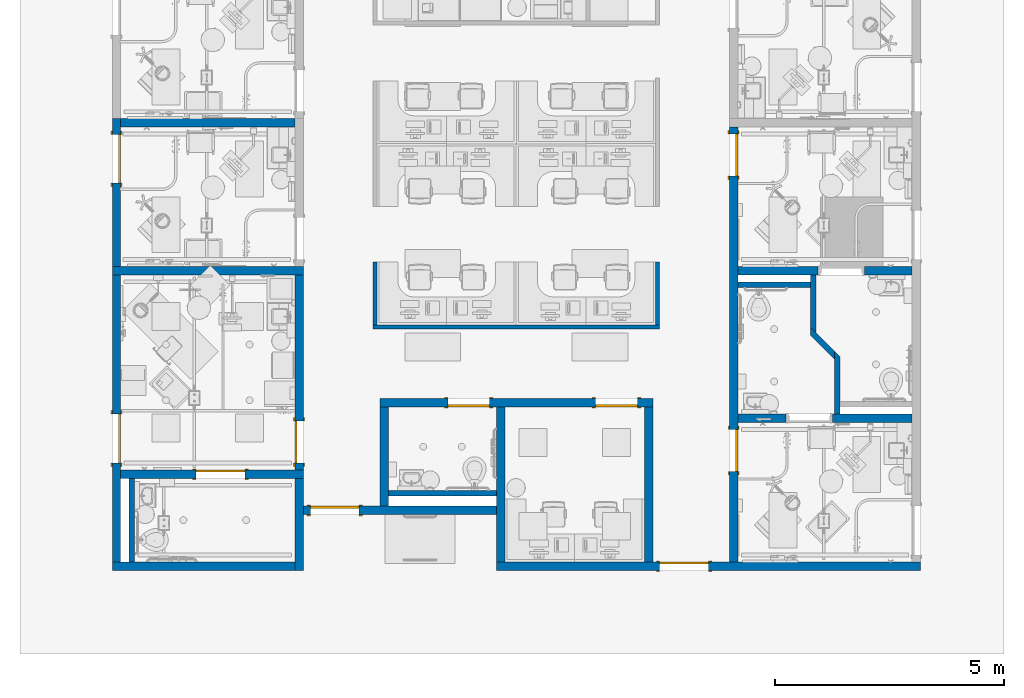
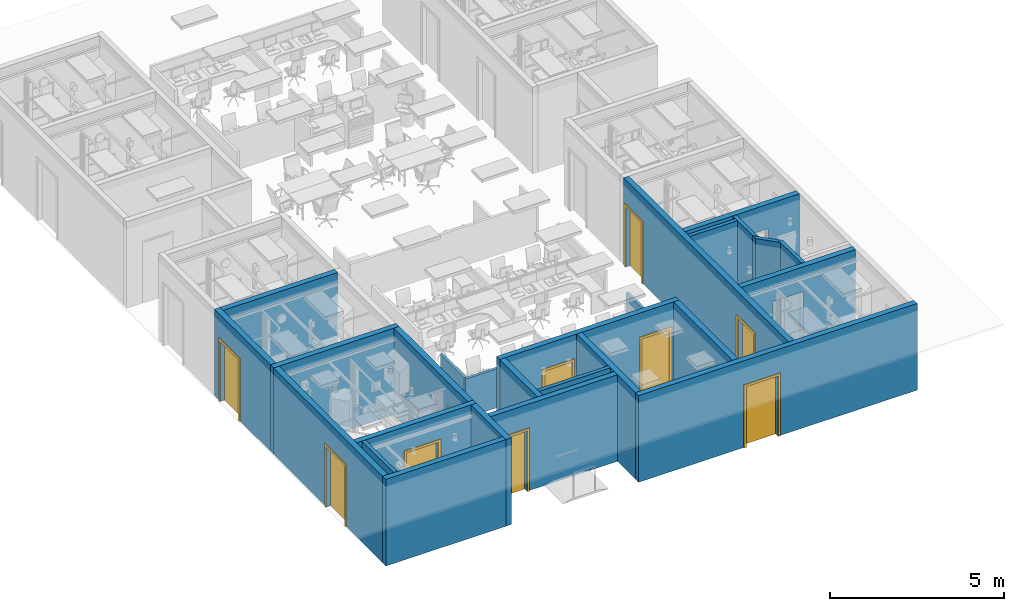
# One storey, part 1 of 142: 26 walls, 10 doors, 12 openings.
"""IFC2X3 building model written with IfcOpenShell, lengths in feet."""

from ifc_helpers import new_model, entity, si_unit, converted_unit, derived_unit, direction, frame, frame_2d, origin, place, context, subcontext, project, spatial, polyline, rectangle, outline, extrude, source, transform, mapped, material, layer, layer_set, layer_usage, type_object, type_shapes, element, fill, save


model = new_model("IFC2X3")

# Units and contexts
model_context = context("Model", 3, precision=0.0001, world=origin(), true_north=direction((6.12303176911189e-17, 1.0)))
body_context = subcontext(model_context, "Body", "Model", "MODEL_VIEW")
ifc_project = project(units=[converted_unit("LENGTHUNIT", "FOOT", entity("IfcRatioMeasure", 0.3048), si_unit("LENGTHUNIT", "METRE"), dimensions=[1, 0, 0, 0, 0, 0, 0]), converted_unit("AREAUNIT", "SQUARE FOOT", entity("IfcRatioMeasure", 0.09290304), si_unit("AREAUNIT", "SQUARE_METRE"), dimensions=[2, 0, 0, 0, 0, 0, 0]), converted_unit("VOLUMEUNIT", "CUBIC FOOT", entity("IfcRatioMeasure", 0.028316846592), si_unit("VOLUMEUNIT", "CUBIC_METRE"), dimensions=[3, 0, 0, 0, 0, 0, 0]), converted_unit("PLANEANGLEUNIT", "DEGREE", entity("IfcRatioMeasure", 0.0174532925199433), si_unit("PLANEANGLEUNIT", "RADIAN"), dimensions=[0, 0, 0, 0, 0, 0, 0]), si_unit("MASSUNIT", "GRAM", prefix="KILO"), derived_unit("MASSDENSITYUNIT", [(si_unit("MASSUNIT", "GRAM", prefix="KILO"), 1), (si_unit("LENGTHUNIT", "METRE"), -3)]), si_unit("TIMEUNIT", "SECOND"), si_unit("FREQUENCYUNIT", "HERTZ"), si_unit("THERMODYNAMICTEMPERATUREUNIT", "DEGREE_CELSIUS"), derived_unit("THERMALTRANSMITTANCEUNIT", [(si_unit("MASSUNIT", "GRAM", prefix="KILO"), 1), (si_unit("THERMODYNAMICTEMPERATUREUNIT", "KELVIN"), -1), (si_unit("TIMEUNIT", "SECOND"), -3)]), derived_unit("VOLUMETRICFLOWRATEUNIT", [(si_unit("LENGTHUNIT", "METRE"), 3), (si_unit("TIMEUNIT", "SECOND"), -1)]), si_unit("ELECTRICCURRENTUNIT", "AMPERE"), si_unit("ELECTRICVOLTAGEUNIT", "VOLT"), si_unit("POWERUNIT", "WATT"), si_unit("FORCEUNIT", "NEWTON"), si_unit("ILLUMINANCEUNIT", "LUX"), si_unit("LUMINOUSFLUXUNIT", "LUMEN"), si_unit("LUMINOUSINTENSITYUNIT", "CANDELA"), derived_unit("USERDEFINED", [(si_unit("MASSUNIT", "GRAM", prefix="KILO"), -1), (si_unit("LENGTHUNIT", "METRE"), -2), (si_unit("TIMEUNIT", "SECOND"), 3), (si_unit("LUMINOUSFLUXUNIT", "LUMEN"), 1)]), derived_unit("LINEARVELOCITYUNIT", [(si_unit("LENGTHUNIT", "METRE"), 1), (si_unit("TIMEUNIT", "SECOND"), -1)]), si_unit("PRESSUREUNIT", "PASCAL"), derived_unit("USERDEFINED", [(si_unit("LENGTHUNIT", "METRE"), -2), (si_unit("MASSUNIT", "GRAM", prefix="KILO"), 1), (si_unit("TIMEUNIT", "SECOND"), -2)])], contexts=[model_context])

# Site, building, storey
site_placement = place(None, origin())
site = spatial("IfcSite", under=ifc_project, at=site_placement, Name="Default", CompositionType="ELEMENT")
building_placement = place(site_placement, origin())
building = spatial("IfcBuilding", under=site, at=building_placement, Name="OUTPATIENT / PACT CLINIC (Ch. 265)", CompositionType="ELEMENT")
storey_placement = place(building_placement, origin())
storey = spatial("IfcBuildingStorey", under=building, at=storey_placement, Name="LEVEL 1", CompositionType="ELEMENT", Elevation=0.0)

# Wall, opening, door
ifc_material = material(Name="<Unnamed>")
ifc_layer_1 = layer(ifc_material, 0.604166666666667)
ifc_layer_set_1 = layer_set([ifc_layer_1], Name="Basic Wall:Interior - 7 1/4\"")
ifc_layer_usage_1 = layer_usage(ifc_layer_set_1, "AXIS2", "NEGATIVE", 0.302083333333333)
wall_type_1 = type_object("IfcWallType", Name="Basic Wall:Interior - 7 1/4\"", PredefinedType="STANDARD", material=ifc_layer_set_1)
wall_1_placement = place(storey_placement, frame((417.942616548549, -948.951739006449, 0.0), z_axis=(0.0, 0.0, 1.0), x_axis=(-1.0, 0.0, 0.0)))
wall_1 = element("IfcWallStandardCase", 1, at=wall_1_placement, inside=storey, type_object=wall_type_1, material=ifc_layer_usage_1, Name="Basic Wall:Interior - 7 1/4\"", ObjectType="Basic Wall:Interior - 7 1/4\"", context=body_context, shape_type="SweptSolid", body=[
    extrude(rectangle(XDim=13.875140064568, YDim=0.604166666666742, at=frame_2d((6.93757003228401, 0.0), x_axis=(-1.0, 0.0))), origin(), (0.0, 0.0, 1.0), 9.99999999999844),
])
opening_1_placement = place(wall_1_placement, frame((13.3751400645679, 0.302083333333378, 0.0)))
opening_1 = element("IfcOpeningElement", 2, at=opening_1_placement, cuts=wall_1, Name="DOOR-Design-SGL:42\" x 84\":1", ObjectType="Opening", context=body_context, shape_type="SweptSolid", body=[
    extrude(rectangle(XDim=3.5, YDim=7.0, at=frame_2d((3.5, 1.75), x_axis=(0.0, -1.0))), frame((0.0, 0.0, 0.0), z_axis=(0.0, -1.0, 0.0), x_axis=(0.0, 0.0, 1.0)), (0.0, 0.0, 1.0), 0.604166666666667),
])
door_style_1 = type_object("IfcDoorStyle", Name="42\" x 84\"", ConstructionType="NOTDEFINED", OperationType="SINGLE_SWING_LEFT", ParameterTakesPrecedence=False, Sizeable=False)
shared_shape_1 = source(origin(), body_context, "Body", "SweptSolid", [
    extrude(outline(polyline([(-2.0, -3.6875), (2.0, -3.6875), (2.0, 3.5625), (1.75, 3.5625), (1.75, -3.43750000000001), (-1.75, -3.43750000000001), (-1.75, 3.5625), (-2.0, 3.5625), (-2.0, -3.6875)])), frame((1.75, 0.687499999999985, 3.5625), z_axis=(0.0, -1.0, 0.0), x_axis=(-1.0, 0.0, 0.0)), (0.0, 0.0, 1.0), 0.0833333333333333),
    extrude(outline(polyline([(-3.6875, -2.0), (3.5625, -2.0), (3.5625, -1.75000000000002), (-3.4375, -1.75000000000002), (-3.4375, 1.75000000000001), (3.5625, 1.75000000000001), (3.5625, 2.0), (-3.6875, 2.0), (-3.6875, -2.0)])), frame((1.74999999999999, 0.0, 3.5625), z_axis=(0.0, -1.0, 0.0), x_axis=(0.0, 0.0, -1.0)), (0.0, 0.0, 1.0), 0.0833333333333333),
    extrude(rectangle(XDim=3.5, YDim=0.166666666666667, at=frame_2d((0.0, -1.38777878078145e-17), x_axis=(1.0, 0.0))), frame((1.75, 0.520833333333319, 0.0)), (0.0, 0.0, 1.0), 7.0),
])
type_shapes(door_style_1, [shared_shape_1])
door_1_placement = place(opening_1_placement, frame((0.0, 0.0, 0.0), z_axis=(0.0, 0.0, 1.0), x_axis=(-1.0, 0.0, 0.0)))
door_1 = element("IfcDoor", 3, at=door_1_placement, inside=storey, type_object=door_style_1, Name="DOOR-Design-SGL:42\" x 84\"", ObjectType="42\" x 84\"", OverallHeight=7.0, OverallWidth=3.5, context=body_context, shape_type="MappedRepresentation", body=[
    mapped(shared_shape_1, transform((0.0, 0.0, 0.0), scale=1.0)),
])
fill(opening_1, door_1)

# Wall, openings, doors
ifc_layer_usage_2 = layer_usage(ifc_layer_set_1, "AXIS2", "POSITIVE", -0.302083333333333)
wall_2_placement = place(storey_placement, frame((409.567476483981, -941.222601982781, 0.0)))
wall_2 = element("IfcWallStandardCase", 4, at=wall_2_placement, inside=storey, type_object=wall_type_1, material=ifc_layer_usage_2, Name="Basic Wall:Interior - 7 1/4\"", ObjectType="Basic Wall:Interior - 7 1/4\"", context=body_context, shape_type="SweptSolid", body=[
    extrude(rectangle(XDim=19.5834733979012, YDim=0.604166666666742, at=frame_2d((9.79173669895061, 0.0), x_axis=(-1.0, 0.0))), origin(), (0.0, 0.0, 1.0), 9.99999999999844),
])
opening_2_placement = place(wall_2_placement, frame((18.4793067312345, 0.302083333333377, 0.0)))
opening_2 = element("IfcOpeningElement", 5, at=opening_2_placement, cuts=wall_2, Name="DOOR-Design-SGL:36\" x 84\":1", ObjectType="Opening", context=body_context, shape_type="SweptSolid", body=[
    extrude(rectangle(XDim=3.0, YDim=7.0, at=frame_2d((3.5, 1.5), x_axis=(0.0, -1.0))), frame((0.0, 0.0, 0.0), z_axis=(0.0, -1.0, 0.0), x_axis=(0.0, 0.0, 1.0)), (0.0, 0.0, 1.0), 0.604166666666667),
])
opening_3_placement = place(wall_2_placement, frame((7.87514006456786, 0.302083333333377, 0.0)))
opening_3 = element("IfcOpeningElement", 6, at=opening_3_placement, cuts=wall_2, Name="DOOR-Design-SGL:36\" x 84\":1", ObjectType="Opening", context=body_context, shape_type="SweptSolid", body=[
    extrude(rectangle(XDim=3.0, YDim=7.0, at=frame_2d((3.5, 1.5), x_axis=(0.0, -1.0))), frame((0.0, 0.0, 0.0), z_axis=(0.0, -1.0, 0.0), x_axis=(0.0, 0.0, 1.0)), (0.0, 0.0, 1.0), 0.604166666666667),
])
door_style_2 = type_object("IfcDoorStyle", Name="36\" x 84\"", ConstructionType="NOTDEFINED", OperationType="SINGLE_SWING_LEFT", ParameterTakesPrecedence=False, Sizeable=False)
shared_shape_2 = source(origin(), body_context, "Body", "SweptSolid", [
    extrude(outline(polyline([(-1.75, -3.6875), (1.75, -3.6875), (1.75, 3.5625), (1.5, 3.5625), (1.5, -3.43750000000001), (-1.5, -3.43750000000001), (-1.5, 3.5625), (-1.75, 3.5625), (-1.75, -3.6875)])), frame((1.5, 0.687499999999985, 3.5625), z_axis=(0.0, -1.0, 0.0), x_axis=(-1.0, 0.0, 0.0)), (0.0, 0.0, 1.0), 0.0833333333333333),
    extrude(outline(polyline([(-3.6875, -1.74999999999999), (3.5625, -1.74999999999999), (3.5625, -1.50000000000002), (-3.4375, -1.50000000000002), (-3.4375, 1.50000000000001), (3.5625, 1.50000000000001), (3.5625, 1.75000000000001), (-3.6875, 1.75000000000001), (-3.6875, -1.74999999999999)])), frame((1.49999999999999, 0.0, 3.5625), z_axis=(0.0, -1.0, 0.0), x_axis=(0.0, 0.0, -1.0)), (0.0, 0.0, 1.0), 0.0833333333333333),
    extrude(rectangle(XDim=3.0, YDim=0.166666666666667, at=frame_2d((0.0, -1.38777878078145e-17), x_axis=(1.0, 0.0))), frame((1.5, 0.520833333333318, 0.0)), (0.0, 0.0, 1.0), 7.0),
])
type_shapes(door_style_2, [shared_shape_2])
door_2_placement = place(opening_2_placement, frame((0.0, 0.0, 0.0), z_axis=(0.0, 0.0, 1.0), x_axis=(-1.0, 0.0, 0.0)))
door_2 = element("IfcDoor", 7, at=door_2_placement, inside=storey, type_object=door_style_2, Name="DOOR-Design-SGL:36\" x 84\"", ObjectType="36\" x 84\"", OverallHeight=7.0, OverallWidth=3.0, context=body_context, shape_type="MappedRepresentation", body=[
    mapped(shared_shape_2, transform((0.0, 0.0, 0.0), scale=1.0)),
])
fill(opening_2, door_2)
door_3_placement = place(opening_3_placement, frame((0.0, 0.0, 0.0), z_axis=(0.0, 0.0, 1.0), x_axis=(-1.0, 0.0, 0.0)))
door_3 = element("IfcDoor", 8, at=door_3_placement, inside=storey, type_object=door_style_2, Name="DOOR-Design-SGL:36\" x 84\"", ObjectType="36\" x 84\"", OverallHeight=7.0, OverallWidth=3.0, context=body_context, shape_type="MappedRepresentation", body=[
    mapped(shared_shape_2, transform((0.0, 0.0, 0.0), scale=1.0)),
])
fill(opening_3, door_3)

# Walls
ifc_layer_usage_3 = layer_usage(ifc_layer_set_1, "AXIS2", "NEGATIVE", 0.302083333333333)
wall_3_placement = place(storey_placement, frame((428.848866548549, -941.524685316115, 0.0), z_axis=(0.0, 0.0, 1.0), x_axis=(0.0, -1.0, 0.0)))
element("IfcWallStandardCase", 9, at=wall_3_placement, inside=storey, type_object=wall_type_1, material=ifc_layer_usage_3, Name="Basic Wall:Interior - 7 1/4\"", ObjectType="Basic Wall:Interior - 7 1/4\"", context=body_context, shape_type="SweptSolid", body=[
    extrude(rectangle(XDim=11.1249703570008, YDim=0.604166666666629, at=frame_2d((5.56248517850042, 9.10382880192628e-15), x_axis=(-1.0, 0.0))), origin(), (0.0, 0.0, 1.0), 9.99999999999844),
])
ifc_layer_usage_4 = layer_usage(ifc_layer_set_1, "AXIS2", "NEGATIVE", 0.302083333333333)
wall_4_placement = place(storey_placement, frame((418.244699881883, -941.524685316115, 0.0), z_axis=(0.0, 0.0, 1.0), x_axis=(0.0, -1.0, 0.0)))
element("IfcWallStandardCase", 10, at=wall_4_placement, inside=storey, type_object=wall_type_1, material=ifc_layer_usage_4, Name="Basic Wall:Interior - 7 1/4\"", ObjectType="Basic Wall:Interior - 7 1/4\"", context=body_context, shape_type="SweptSolid", body=[
    extrude(rectangle(XDim=11.1249703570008, YDim=0.604166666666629, at=frame_2d((5.56248517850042, 8.79851747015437e-15), x_axis=(-1.0, 0.0))), origin(), (0.0, 0.0, 1.0), 9.99999999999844),
])
ifc_layer_usage_5 = layer_usage(ifc_layer_set_1, "AXIS2", "NEGATIVE", 0.302083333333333)
wall_5_placement = place(storey_placement, frame((390.359283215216, -931.743435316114, 0.0)))
element("IfcWallStandardCase", 11, at=wall_5_placement, inside=storey, type_object=wall_type_1, material=ifc_layer_usage_5, Name="Basic Wall:Interior - 7 1/4\"", ObjectType="Basic Wall:Interior - 7 1/4\"", context=body_context, shape_type="SweptSolid", body=[
    extrude(rectangle(XDim=13.7081932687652, YDim=0.604166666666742, at=frame_2d((6.85409663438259, 3.09197112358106e-14), x_axis=(-1.0, 0.0))), origin(), (0.0, 0.0, 1.0), 9.99999999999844),
])

# Wall, opening, door
ifc_layer_usage_6 = layer_usage(ifc_layer_set_1, "AXIS2", "NEGATIVE", 0.302083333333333)
wall_6_placement = place(storey_placement, frame((390.963449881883, -946.347620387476, 0.0)))
wall_6 = element("IfcWallStandardCase", 12, at=wall_6_placement, inside=storey, type_object=wall_type_1, material=ifc_layer_usage_6, Name="Basic Wall:Interior - 7 1/4\"", ObjectType="Basic Wall:Interior - 7 1/4\"", context=body_context, shape_type="SweptSolid", body=[
    extrude(rectangle(XDim=13.1040266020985, YDim=0.604166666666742, at=frame_2d((6.55201330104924, 2.70339306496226e-14), x_axis=(-1.0, 0.0))), origin(), (0.0, 0.0, 1.0), 9.99999999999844),
])
opening_4_placement = place(wall_6_placement, frame((5.41652660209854, -0.302083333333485, 0.0)))
opening_4 = element("IfcOpeningElement", 13, at=opening_4_placement, cuts=wall_6, Name="DOOR-Design-SGL:42\" x 84\":1", ObjectType="Opening", context=body_context, shape_type="SweptSolid", body=[
    extrude(rectangle(XDim=3.5, YDim=7.0, at=frame_2d((3.5, 1.75), x_axis=(0.0, 1.0))), frame((0.0, 0.0, 0.0), z_axis=(0.0, 1.0, 0.0), x_axis=(0.0, 0.0, 1.0)), (0.0, 0.0, 1.0), 0.604166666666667),
])
door_style_3 = type_object("IfcDoorStyle", Name="42\" x 84\"", ConstructionType="NOTDEFINED", OperationType="SINGLE_SWING_RIGHT", ParameterTakesPrecedence=False, Sizeable=False)
shared_shape_3 = source(origin(), body_context, "Body", "SweptSolid", [
    extrude(outline(polyline([(-2.0, -3.6875), (2.0, -3.6875), (2.0, 3.5625), (1.75, 3.5625), (1.75, -3.43750000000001), (-1.75, -3.43750000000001), (-1.75, 3.5625), (-2.0, 3.5625), (-2.0, -3.6875)])), frame((1.75, 0.604166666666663, 3.5625), z_axis=(0.0, 1.0, 0.0), x_axis=(1.0, 0.0, 0.0)), (0.0, 0.0, 1.0), 0.0833333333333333),
    extrude(outline(polyline([(-3.6875, -2.0), (3.5625, -2.0), (3.5625, -1.75000000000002), (-3.4375, -1.75000000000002), (-3.4375, 1.75000000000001), (3.5625, 1.75000000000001), (3.5625, 2.0), (-3.6875, 2.0), (-3.6875, -2.0)])), frame((1.75000000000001, -0.0833333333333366, 3.5625), z_axis=(0.0, 1.0, 0.0), x_axis=(0.0, 0.0, -1.0)), (0.0, 0.0, 1.0), 0.0833333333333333),
    extrude(rectangle(XDim=0.166666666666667, YDim=3.5, at=frame_2d((1.38777878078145e-17, 0.0), x_axis=(1.0, 0.0))), frame((1.75, 0.52083333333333, 0.0), z_axis=(0.0, 0.0, 1.0), x_axis=(0.0, 1.0, 0.0)), (0.0, 0.0, 1.0), 7.0),
])
type_shapes(door_style_3, [shared_shape_3])
door_4_placement = place(opening_4_placement, origin())
door_4 = element("IfcDoor", 14, at=door_4_placement, inside=storey, type_object=door_style_3, Name="DOOR-Design-SGL:42\" x 84\"", ObjectType="42\" x 84\"", OverallHeight=7.0, OverallWidth=3.5, context=body_context, shape_type="MappedRepresentation", body=[
    mapped(shared_shape_3, transform((0.0, 0.0, 0.0), scale=1.0)),
])
fill(opening_4, door_4)

ifc_layer_usage_7 = layer_usage(ifc_layer_set_1, "AXIS2", "NEGATIVE", 0.302083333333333)
wall_7_placement = place(storey_placement, frame((403.765393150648, -946.045537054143, 0.0), z_axis=(0.0, 0.0, 1.0), x_axis=(0.0, 1.0, 0.0)))
wall_7 = element("IfcWallStandardCase", 15, at=wall_7_placement, inside=storey, type_object=wall_type_1, material=ifc_layer_usage_7, Name="Basic Wall:Interior - 7 1/4\"", ObjectType="Basic Wall:Interior - 7 1/4\"", context=body_context, shape_type="SweptSolid", body=[
    extrude(rectangle(XDim=14.0000184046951, YDim=0.604166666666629, at=frame_2d((7.00000920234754, -6.18949336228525e-15), x_axis=(-1.0, 0.0))), origin(), (0.0, 0.0, 1.0), 9.99999999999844),
])
opening_5_placement = place(wall_7_placement, frame((0.500000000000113, -0.302083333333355, 0.0)))
opening_5 = element("IfcOpeningElement", 16, at=opening_5_placement, cuts=wall_7, Name="DOOR-Design-SGL:36\" x 84\":1", ObjectType="Opening", context=body_context, shape_type="SweptSolid", body=[
    extrude(rectangle(XDim=3.0, YDim=7.0, at=frame_2d((3.5, 1.5), x_axis=(0.0, -1.0))), frame((0.0, 0.0, 0.0), z_axis=(0.0, 1.0, 0.0), x_axis=(0.0, 0.0, 1.0)), (0.0, 0.0, 1.0), 0.604166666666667),
])
door_5_placement = place(opening_5_placement, origin())
door_5 = element("IfcDoor", 17, at=door_5_placement, inside=storey, type_object=door_style_2, Name="DOOR-Design-SGL:36\" x 84\"", ObjectType="36\" x 84\"", OverallHeight=7.0, OverallWidth=3.0, context=body_context, shape_type="MappedRepresentation", body=[
    mapped(shared_shape_2, transform((0.0, 0.0, 0.0), scale=1.0)),
])
fill(opening_5, door_5)

ifc_layer_usage_8 = layer_usage(ifc_layer_set_1, "AXIS2", "NEGATIVE", 0.302083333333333)
wall_8_placement = place(storey_placement, frame((390.661366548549, -952.649655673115, 0.0), z_axis=(0.0, 0.0, 1.0), x_axis=(0.0, 1.0, 0.0)))
wall_8 = element("IfcWallStandardCase", 18, at=wall_8_placement, inside=storey, type_object=wall_type_1, material=ifc_layer_usage_8, Name="Basic Wall:Interior - 7 1/4\"", ObjectType="Basic Wall:Interior - 7 1/4\"", context=body_context, shape_type="SweptSolid", body=[
    extrude(rectangle(XDim=20.6041370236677, YDim=0.604166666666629, at=frame_2d((10.3020685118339, -1.07414077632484e-14), x_axis=(-1.0, 0.0))), origin(), (0.0, 0.0, 1.0), 9.99999999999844),
])
opening_6_placement = place(wall_8_placement, frame((10.6041186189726, 0.302083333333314, 0.0)))
opening_6 = element("IfcOpeningElement", 19, at=opening_6_placement, cuts=wall_8, Name="DOOR-Design-SGL:42\" x 84\":1", ObjectType="Opening", context=body_context, shape_type="SweptSolid", body=[
    extrude(rectangle(XDim=3.5, YDim=7.0, at=frame_2d((3.5, 1.75), x_axis=(0.0, 1.0))), frame((0.0, 0.0, 0.0), z_axis=(0.0, -1.0, 0.0), x_axis=(0.0, 0.0, 1.0)), (0.0, 0.0, 1.0), 0.604166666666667),
])
door_6_placement = place(opening_6_placement, frame((0.0, 0.0, 0.0), z_axis=(0.0, 0.0, 1.0), x_axis=(-1.0, 0.0, 0.0)))
door_6 = element("IfcDoor", 20, at=door_6_placement, inside=storey, type_object=door_style_3, Name="DOOR-Design-SGL:42\" x 84\"", ObjectType="42\" x 84\"", OverallHeight=7.0, OverallWidth=3.5, context=body_context, shape_type="MappedRepresentation", body=[
    mapped(shared_shape_3, transform((0.0, 0.0, 0.0), scale=1.0)),
])
fill(opening_6, door_6)

ifc_layer_usage_9 = layer_usage(ifc_layer_set_1, "AXIS2", "NEGATIVE", 0.302083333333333)
wall_9_placement = place(storey_placement, frame((390.66136654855, -920.837185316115, 0.0), z_axis=(0.0, 0.0, 1.0), x_axis=(0.0, -1.0, 0.0)))
wall_9 = element("IfcWallStandardCase", 21, at=wall_9_placement, inside=storey, type_object=wall_type_1, material=ifc_layer_usage_9, Name="Basic Wall:Interior - 7 1/4\"", ObjectType="Basic Wall:Interior - 7 1/4\"", context=body_context, shape_type="SweptSolid", body=[
    extrude(rectangle(XDim=10.6041666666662, YDim=0.604166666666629, at=frame_2d((5.30208333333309, -1.9595436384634e-14), x_axis=(-1.0, 0.0))), origin(), (0.0, 0.0, 1.0), 9.99999999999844),
])
opening_7_placement = place(wall_9_placement, frame((1.13085937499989, -0.302083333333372, 0.0)))
opening_7 = element("IfcOpeningElement", 22, at=opening_7_placement, cuts=wall_9, Name="DOOR-Design-SGL:42\" x 84\":1", ObjectType="Opening", context=body_context, shape_type="SweptSolid", body=[
    extrude(rectangle(XDim=3.5, YDim=7.0, at=frame_2d((3.5, 1.75), x_axis=(0.0, -1.0))), frame((0.0, 0.0, 0.0), z_axis=(0.0, 1.0, 0.0), x_axis=(0.0, 0.0, 1.0)), (0.0, 0.0, 1.0), 0.604166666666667),
])
door_7_placement = place(opening_7_placement, origin())
door_7 = element("IfcDoor", 23, at=door_7_placement, inside=storey, type_object=door_style_1, Name="DOOR-Design-SGL:42\" x 84\"", ObjectType="42\" x 84\"", OverallHeight=7.0, OverallWidth=3.5, context=body_context, shape_type="MappedRepresentation", body=[
    mapped(shared_shape_1, transform((0.0, 0.0, 0.0), scale=1.0)),
])
fill(opening_7, door_7)

# Walls
ifc_layer_usage_10 = layer_usage(ifc_layer_set_1, "AXIS2", "NEGATIVE", 0.302083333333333)
wall_10_placement = place(storey_placement, frame((390.963449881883, -921.139268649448, 0.0)))
element("IfcWallStandardCase", 24, at=wall_10_placement, inside=storey, type_object=wall_type_1, material=ifc_layer_usage_10, Name="Basic Wall:Interior - 7 1/4\"", ObjectType="Basic Wall:Interior - 7 1/4\"", context=body_context, shape_type="SweptSolid", body=[
    extrude(rectangle(XDim=12.4998599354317, YDim=0.604166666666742, at=frame_2d((6.24992996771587, 0.0), x_axis=(-1.0, 0.0))), origin(), (0.0, 0.0, 1.0), 9.99999999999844),
])
ifc_layer_usage_11 = layer_usage(ifc_layer_set_1, "AXIS2", "POSITIVE", -0.302083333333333)
wall_11_placement = place(storey_placement, frame((390.359283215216, -952.951739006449, 0.0)))
element("IfcWallStandardCase", 25, at=wall_11_placement, inside=storey, type_object=wall_type_1, material=ifc_layer_usage_11, Name="Basic Wall:Interior - 7 1/4\"", ObjectType="Basic Wall:Interior - 7 1/4\"", context=body_context, shape_type="SweptSolid", body=[
    extrude(rectangle(XDim=13.1040266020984, YDim=0.604166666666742, at=frame_2d((6.55201330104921, 0.0), x_axis=(-1.0, 0.0))), origin(), (0.0, 0.0, 1.0), 9.99999999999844),
])
ifc_layer_usage_12 = layer_usage(ifc_layer_set_1, "AXIS2", "NEGATIVE", 0.302083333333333)
wall_12_placement = place(storey_placement, frame((403.765393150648, -946.64970372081, 0.0), z_axis=(0.0, 0.0, 1.0), x_axis=(0.0, -1.0, 0.0)))
element("IfcWallStandardCase", 26, at=wall_12_placement, inside=storey, type_object=wall_type_1, material=ifc_layer_usage_12, Name="Basic Wall:Interior - 7 1/4\"", ObjectType="Basic Wall:Interior - 7 1/4\"", context=body_context, shape_type="SweptSolid", body=[
    extrude(rectangle(XDim=6.60411861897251, YDim=0.604166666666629, at=frame_2d((3.30205930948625, 0.0), x_axis=(-1.0, 0.0))), origin(), (0.0, 0.0, 1.0), 9.99999999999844),
])

# Wall, opening
ifc_layer_usage_13 = layer_usage(ifc_layer_set_1, "AXIS2", "NEGATIVE", 0.302083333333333)
wall_13_placement = place(storey_placement, frame((447.754977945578, -931.743425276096, 0.0), z_axis=(0.0, 0.0, 1.0), x_axis=(-1.0, 0.0, 0.0)))
wall_13 = element("IfcWallStandardCase", 27, at=wall_13_placement, inside=storey, type_object=wall_type_1, material=ifc_layer_usage_13, Name="Basic Wall:Interior - 7 1/4\"", ObjectType="Basic Wall:Interior - 7 1/4\"", context=body_context, shape_type="SweptSolid", body=[
    extrude(rectangle(XDim=12.4999533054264, YDim=0.604166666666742, at=frame_2d((6.2499766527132, 2.09832151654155e-14), x_axis=(-1.0, 0.0))), origin(), (0.0, 0.0, 1.0), 9.99999999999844),
])
opening_8_placement = place(wall_13_placement, frame((3.40068003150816, -0.302083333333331, 0.0)))
element("IfcOpeningElement", 28, at=opening_8_placement, cuts=wall_13, Name="DOOR-Hinged-SGL:F  36\"x 84\":1", ObjectType="Opening", context=body_context, shape_type="SweptSolid", body=[
    extrude(rectangle(XDim=7.16666666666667, YDim=3.33333333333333, at=frame_2d((3.58333333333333, 1.66666666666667), x_axis=(1.0, 0.0))), frame((0.0, 0.0, 0.0), z_axis=(0.0, 1.0, 0.0), x_axis=(0.0, 0.0, 1.0)), (0.0, 0.0, 1.0), 0.604166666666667),
])

ifc_layer_usage_14 = layer_usage(ifc_layer_set_1, "AXIS2", "NEGATIVE", 0.302083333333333)
wall_14_placement = place(storey_placement, frame((435.255074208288, -942.347572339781, 0.0)))
wall_14 = element("IfcWallStandardCase", 29, at=wall_14_placement, inside=storey, type_object=wall_type_1, material=ifc_layer_usage_14, Name="Basic Wall:Interior - 7 1/4\"", ObjectType="Basic Wall:Interior - 7 1/4\"", context=body_context, shape_type="SweptSolid", body=[
    extrude(rectangle(XDim=12.4999037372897, YDim=0.604166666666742, at=frame_2d((6.24995186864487, 2.17326157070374e-14), x_axis=(-1.0, 0.0))), origin(), (0.0, 0.0, 1.0), 9.99999999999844),
])
opening_9_placement = place(wall_14_placement, frame((6.79641564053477, 0.302083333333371, 0.0)))
element("IfcOpeningElement", 30, at=opening_9_placement, cuts=wall_14, Name="DOOR-Hinged-SGL:F  36\"x 84\":1", ObjectType="Opening", context=body_context, shape_type="SweptSolid", body=[
    extrude(rectangle(XDim=7.16666666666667, YDim=3.33333333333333, at=frame_2d((3.58333333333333, 1.66666666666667), x_axis=(1.0, 0.0))), frame((0.0, 0.0, 0.0), z_axis=(0.0, -1.0, 0.0), x_axis=(0.0, 0.0, 1.0)), (0.0, 0.0, 1.0), 0.604166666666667),
])

# Wall, openings, doors
ifc_layer_usage_15 = layer_usage(ifc_layer_set_1, "AXIS2", "NEGATIVE", 0.302083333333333)
wall_15_placement = place(storey_placement, frame((434.952894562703, -921.441340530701, 0.0), z_axis=(0.0, 0.0, 1.0), x_axis=(4.67441052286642e-06, -1.0, 0.0)))
wall_15 = element("IfcWallStandardCase", 31, at=wall_15_placement, inside=storey, type_object=wall_type_1, material=ifc_layer_usage_15, Name="Basic Wall:Interior - 7 1/4\"", ObjectType="Basic Wall:Interior - 7 1/4\"", context=body_context, shape_type="SweptSolid", body=[
    extrude(rectangle(XDim=31.2083165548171, YDim=0.604166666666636, at=frame_2d((15.6041582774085, -1.55431223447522e-14), x_axis=(-1.0, 0.0))), origin(), (0.0, 0.0, 1.0), 9.99999999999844),
])
opening_10_placement = place(wall_15_placement, frame((0.50000594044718, -0.302090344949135, 0.0)))
opening_10 = element("IfcOpeningElement", 32, at=opening_10_placement, cuts=wall_15, Name="DOOR-Design-SGL:36\" x 84\":1", ObjectType="Opening", context=body_context, shape_type="SweptSolid", body=[
    extrude(rectangle(XDim=3.0, YDim=7.0, at=frame_2d((3.5, 1.50000000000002), x_axis=(0.0, -1.0))), frame((0.0, 0.0, 0.0), z_axis=(-4.67441052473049e-06, 1.0, 0.0), x_axis=(0.0, 0.0, 1.0)), (0.0, 0.0, 1.0), 0.604166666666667),
])
opening_11_placement = place(wall_15_placement, frame((21.7083165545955, -0.302090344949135, 0.0)))
opening_11 = element("IfcOpeningElement", 33, at=opening_11_placement, cuts=wall_15, Name="DOOR-Design-SGL:36\" x 84\":1", ObjectType="Opening", context=body_context, shape_type="SweptSolid", body=[
    extrude(rectangle(XDim=3.0, YDim=7.0, at=frame_2d((3.5, 1.50000000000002), x_axis=(0.0, -1.0))), frame((0.0, 0.0, 0.0), z_axis=(-4.67441052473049e-06, 1.0, 0.0), x_axis=(0.0, 0.0, 1.0)), (0.0, 0.0, 1.0), 0.604166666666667),
])
door_8_placement = place(opening_10_placement, frame((0.0, 9.34884553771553e-06, 0.0)))
door_8 = element("IfcDoor", 34, at=door_8_placement, inside=storey, type_object=door_style_2, Name="DOOR-Design-SGL:36\" x 84\"", ObjectType="36\" x 84\"", OverallHeight=7.0, OverallWidth=3.00000000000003, context=body_context, shape_type="MappedRepresentation", body=[
    mapped(shared_shape_2, transform((0.0, 0.0, 0.0), scale=1.0)),
])
fill(opening_10, door_8)
door_9_placement = place(opening_11_placement, frame((0.0, 0.00010848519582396, 0.0)))
door_9 = element("IfcDoor", 35, at=door_9_placement, inside=storey, type_object=door_style_2, Name="DOOR-Design-SGL:36\" x 84\"", ObjectType="36\" x 84\"", OverallHeight=7.0, OverallWidth=3.00000000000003, context=body_context, shape_type="MappedRepresentation", body=[
    mapped(shared_shape_2, transform((0.0, 0.0, 0.0), scale=1.0)),
])
fill(opening_11, door_9)

# Wall, opening, door
ifc_layer_usage_16 = layer_usage(ifc_layer_set_1, "AXIS2", "NEGATIVE", 0.302083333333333)
wall_16_placement = place(storey_placement, frame((417.942616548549, -952.951739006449, 0.0)))
wall_16 = element("IfcWallStandardCase", 36, at=wall_16_placement, inside=storey, type_object=wall_type_1, material=ifc_layer_usage_16, Name="Basic Wall:Interior - 7 1/4\"", ObjectType="Basic Wall:Interior - 7 1/4\"", context=body_context, shape_type="SweptSolid", body=[
    extrude(rectangle(XDim=30.4165280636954, YDim=0.604166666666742, at=frame_2d((15.2082640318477, 0.0), x_axis=(-1.0, 0.0))), origin(), (0.0, 0.0, 1.0), 9.99999999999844),
])
opening_12_placement = place(wall_16_placement, frame((11.7083333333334, -0.302083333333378, 0.0)))
opening_12 = element("IfcOpeningElement", 37, at=opening_12_placement, cuts=wall_16, Name="DOOR-Design-SGL:42\" x 84\":1", ObjectType="Opening", context=body_context, shape_type="SweptSolid", body=[
    extrude(rectangle(XDim=3.5, YDim=7.0, at=frame_2d((3.5, 1.75), x_axis=(0.0, -1.0))), frame((0.0, 0.0, 0.0), z_axis=(0.0, 1.0, 0.0), x_axis=(0.0, 0.0, 1.0)), (0.0, 0.0, 1.0), 0.604166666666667),
])
door_10_placement = place(opening_12_placement, origin())
door_10 = element("IfcDoor", 38, at=door_10_placement, inside=storey, type_object=door_style_1, Name="DOOR-Design-SGL:42\" x 84\"", ObjectType="42\" x 84\"", OverallHeight=7.0, OverallWidth=3.5, context=body_context, shape_type="MappedRepresentation", body=[
    mapped(shared_shape_1, transform((0.0, 0.0, 0.0), scale=1.0)),
])
fill(opening_12, door_10)

# Walls
ifc_layer_usage_17 = layer_usage(ifc_layer_set_1, "AXIS2", "NEGATIVE", 0.302083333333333)
wall_17_placement = place(storey_placement, frame((409.869559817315, -948.649655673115, 0.0), z_axis=(0.0, 0.0, 1.0), x_axis=(0.0, 1.0, 0.0)))
element("IfcWallStandardCase", 39, at=wall_17_placement, inside=storey, type_object=wall_type_1, material=ifc_layer_usage_17, Name="Basic Wall:Interior - 7 1/4\"", ObjectType="Basic Wall:Interior - 7 1/4\"", context=body_context, shape_type="SweptSolid", body=[
    extrude(rectangle(XDim=7.12497035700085, YDim=0.604166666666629, at=frame_2d((3.56248517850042, -4.82947015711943e-15), x_axis=(-1.0, 0.0))), origin(), (0.0, 0.0, 1.0), 9.99999999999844),
])
ifc_layer_2 = layer(ifc_material, 0.291666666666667)
ifc_layer_set_2 = layer_set([ifc_layer_2], Name="Basic Wall:Systems Furniture Partition")
ifc_layer_usage_18 = layer_usage(ifc_layer_set_2, "AXIS2", "NEGATIVE", 0.145833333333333)
wall_type_2 = type_object("IfcWallType", Name="Basic Wall:Systems Furniture Partition", PredefinedType="STANDARD", material=ifc_layer_set_2)
wall_18_placement = place(storey_placement, frame((409.067616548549, -935.774685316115, 0.0)))
element("IfcWallStandardCase", 40, at=wall_18_placement, inside=storey, type_object=wall_type_2, material=ifc_layer_usage_18, Name="Basic Wall:Systems Furniture Partition", ObjectType="Basic Wall:Systems Furniture Partition", context=body_context, shape_type="SweptSolid", body=[
    extrude(rectangle(XDim=20.5831932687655, YDim=0.291666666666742, at=frame_2d((10.2915966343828, 1.41553435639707e-15), x_axis=(-1.0, 0.0))), origin(), (0.0, 0.0, 1.0), 4.5),
])
ifc_layer_usage_19 = layer_usage(ifc_layer_set_2, "AXIS2", "NEGATIVE", 0.145833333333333)
wall_19_placement = place(storey_placement, frame((429.504976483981, -935.628851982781, 0.0), z_axis=(0.0, 0.0, 1.0), x_axis=(0.0, 1.0, 0.0)))
element("IfcWallStandardCase", 41, at=wall_19_placement, inside=storey, type_object=wall_type_2, material=ifc_layer_usage_19, Name="Basic Wall:Systems Furniture Partition", ObjectType="Basic Wall:Systems Furniture Partition", context=body_context, shape_type="SweptSolid", body=[
    extrude(rectangle(XDim=4.50000000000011, YDim=0.291666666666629, at=frame_2d((2.25000000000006, 0.0), x_axis=(-1.0, 0.0))), origin(), (0.0, 0.0, 1.0), 4.5),
])
ifc_layer_usage_20 = layer_usage(ifc_layer_set_2, "AXIS2", "NEGATIVE", 0.145833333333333)
wall_20_placement = place(storey_placement, frame((409.213449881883, -935.628851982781, 0.0), z_axis=(0.0, 0.0, 1.0), x_axis=(0.0, 1.0, 0.0)))
element("IfcWallStandardCase", 42, at=wall_20_placement, inside=storey, type_object=wall_type_2, material=ifc_layer_usage_20, Name="Basic Wall:Systems Furniture Partition", ObjectType="Basic Wall:Systems Furniture Partition", context=body_context, shape_type="SweptSolid", body=[
    extrude(rectangle(XDim=4.5, YDim=0.291666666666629, at=frame_2d((2.25, 0.0), x_axis=(-1.0, 0.0))), origin(), (0.0, 0.0, 1.0), 4.5),
])
ifc_layer_3 = layer(ifc_material, 0.40625)
ifc_layer_set_3 = layer_set([ifc_layer_3], Name="Basic Wall:Interior - 4 7/8\"")
ifc_layer_usage_21 = layer_usage(ifc_layer_set_3, "AXIS2", "NEGATIVE", 0.203125)
wall_type_3 = type_object("IfcWallType", Name="Basic Wall:Interior - 4 7/8\"", PredefinedType="STANDARD", material=ifc_layer_set_3)
wall_21_placement = place(storey_placement, frame((391.760324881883, -946.649703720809, 0.0), z_axis=(0.0, 0.0, 1.0), x_axis=(0.0, -1.0, 0.0)))
element("IfcWallStandardCase", 43, at=wall_21_placement, inside=storey, type_object=wall_type_3, material=ifc_layer_usage_21, Name="Basic Wall:Interior - 4 7/8\"", ObjectType="Basic Wall:Interior - 4 7/8\"", context=body_context, shape_type="SweptSolid", body=[
    extrude(rectangle(XDim=5.99995195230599, YDim=0.40625, at=frame_2d((2.999975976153, 6.48092690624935e-15), x_axis=(-1.0, 0.0))), origin(), (0.0, 0.0, 1.0), 9.99999999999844),
])
ifc_layer_usage_22 = layer_usage(ifc_layer_set_3, "AXIS2", "POSITIVE", -0.203125)
wall_22_placement = place(storey_placement, frame((440.674023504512, -932.045508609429, 0.0), z_axis=(0.0, 0.0, 1.0), x_axis=(0.0, -1.0, 0.0)))
element("IfcWallStandardCase", 44, at=wall_22_placement, inside=storey, type_object=wall_type_3, material=ifc_layer_usage_22, Name="Basic Wall:Interior - 4 7/8\"", ObjectType="Basic Wall:Interior - 4 7/8\"", context=body_context, shape_type="SweptSolid", body=[
    extrude(outline(polyline([(3.74649430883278, -0.203125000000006), (4.15274430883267, 0.203124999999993), (0.0, 0.203125), (0.0, -0.203125), (0.5, -0.203125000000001), (0.90625, -0.203125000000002), (3.74649430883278, -0.203125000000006)])), origin(), (0.0, 0.0, 1.0), 9.99999999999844),
])
ifc_layer_usage_23 = layer_usage(ifc_layer_set_3, "AXIS2", "POSITIVE", -0.203125)
wall_23_placement = place(storey_placement, frame((440.470898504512, -932.748633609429, 0.0), z_axis=(0.0, 0.0, 1.0), x_axis=(-1.0, 0.0, 0.0)))
element("IfcWallStandardCase", 45, at=wall_23_placement, inside=storey, type_object=wall_type_3, material=ifc_layer_usage_23, Name="Basic Wall:Interior - 4 7/8\"", ObjectType="Basic Wall:Interior - 4 7/8\"", context=body_context, shape_type="SweptSolid", body=[
    extrude(rectangle(XDim=5.21586870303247, YDim=0.40625, at=frame_2d((2.60793435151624, -8.43769498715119e-15), x_axis=(-1.0, 0.0))), origin(), (0.0, 0.0, 1.0), 9.99999999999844),
])
ifc_layer_usage_24 = layer_usage(ifc_layer_set_3, "AXIS2", "POSITIVE", -0.203125)
wall_24_placement = place(storey_placement, frame((442.382356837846, -937.500336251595, 0.0), z_axis=(0.0, 0.0, 1.0), x_axis=(0.0, -1.0, 0.0)))
element("IfcWallStandardCase", 46, at=wall_24_placement, inside=storey, type_object=wall_type_3, material=ifc_layer_usage_24, Name="Basic Wall:Interior - 4 7/8\"", ObjectType="Basic Wall:Interior - 4 7/8\"", context=body_context, shape_type="SweptSolid", body=[
    extrude(outline(polyline([(4.54515275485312, -0.203125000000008), (4.54515275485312, 0.203124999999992), (4.04515275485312, 0.203124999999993), (3.63890275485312, 0.203124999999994), (0.406249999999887, 0.203124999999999), (0.0, -0.203125), (0.574524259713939, -0.203125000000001), (4.54515275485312, -0.203125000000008)])), origin(), (0.0, 0.0, 1.0), 9.99999999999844),
])
ifc_layer_usage_25 = layer_usage(ifc_layer_set_3, "AXIS2", "POSITIVE", -0.203125)
wall_25_placement = place(storey_placement, frame((440.327267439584, -935.93563398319, 0.0), z_axis=(0.0, 0.0, 1.0), x_axis=(0.707106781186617, -0.707106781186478, 0.0)))
element("IfcWallStandardCase", 47, at=wall_25_placement, inside=storey, type_object=wall_type_3, material=ifc_layer_usage_25, Name="Basic Wall:Interior - 4 7/8\"", ObjectType="Basic Wall:Interior - 4 7/8\"", context=body_context, shape_type="SweptSolid", body=[
    extrude(outline(polyline([(2.8221981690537, -0.20312499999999), (2.41594816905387, 0.203124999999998), (0.574524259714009, 0.203125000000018), (0.0, 0.203124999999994), (0.406249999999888, -0.203124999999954), (2.8221981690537, -0.20312499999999)])), origin(), (0.0, 0.0, 1.0), 9.99999999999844),
])
ifc_layer_usage_26 = layer_usage(ifc_layer_set_3, "AXIS2", "NEGATIVE", 0.203125)
wall_26_placement = place(storey_placement, frame((417.942616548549, -947.727780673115, 0.0), z_axis=(0.0, 0.0, 1.0), x_axis=(-1.0, 0.0, 0.0)))
element("IfcWallStandardCase", 48, at=wall_26_placement, inside=storey, type_object=wall_type_3, material=ifc_layer_usage_26, Name="Basic Wall:Interior - 4 7/8\"", ObjectType="Basic Wall:Interior - 4 7/8\"", context=body_context, shape_type="SweptSolid", body=[
    extrude(rectangle(XDim=7.77097339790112, YDim=0.40625, at=frame_2d((3.88548669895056, 0.0), x_axis=(-1.0, 0.0))), origin(), (0.0, 0.0, 1.0), 10.0),
])

save(model, "model.ifc")
